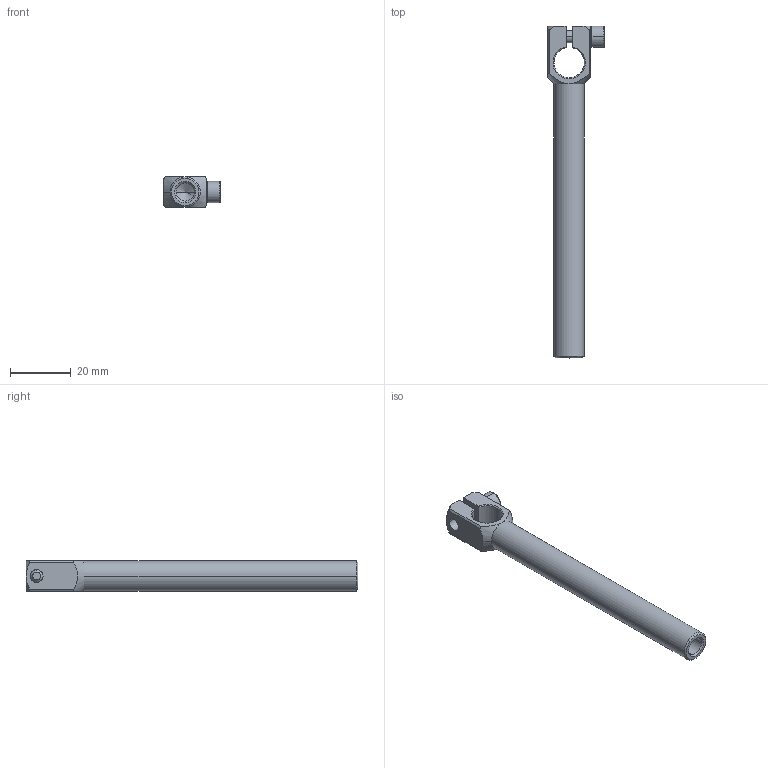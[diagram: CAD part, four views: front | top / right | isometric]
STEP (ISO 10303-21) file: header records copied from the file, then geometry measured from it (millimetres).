
FILE_DESCRIPTION (( 'STEP AP214' ), '1' );
FILE_NAME ('SCA1-1010L90T.STEP', '2023-01-11T06:23:56', ( 'Windows User' ), ( 'P R C' ), 'SwSTEP 2.0', 'SolidWorks 2019', '' );
FILE_SCHEMA (( 'AUTOMOTIVE_DESIGN' ));
Length unit declared in the file: millimetre
Products named in the file (1): SCA1-1010L90T
Bounding box: 18.5 x 109 x 10 mm (x, y, z)
Volume: 6347.3 mm3; surface area: 6293.9 mm2
Topology: 3 solids, 3 shells, 257 faces, 730 edges, 478 vertices
Faces by surface type: plane 211, cylinder 23, cone 21, bspline 2
Entity records: 11454 total; most frequent: CARTESIAN_POINT 1706, DIRECTION 1469, ORIENTED_EDGE 1456, EDGE_CURVE 728, AXIS2_PLACEMENT_3D 508, VERTEX_POINT 478, LINE 453, VECTOR 453
